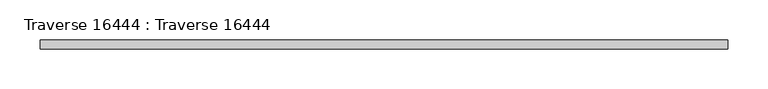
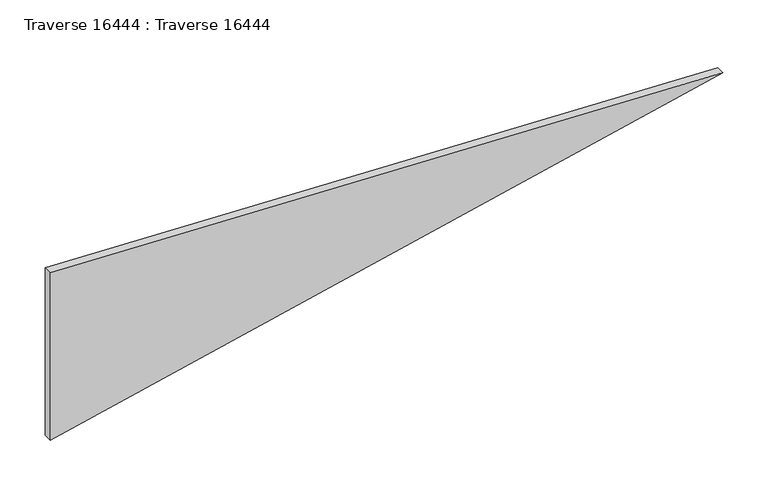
"""IFC4 building model written with IfcOpenShell, lengths in millimetres: beam geometry, Traverse 16444 : Traverse 16444."""

from ifc_helpers import new_model, si_unit, frame, origin, place, context, project, spatial, polyline, outline, extrude, source, transform, mapped, element, save


def traverse_16444_traverse_16444_2ea4da6f(model_context):
    return source(origin(), model_context, "Body", "SweptSolid", [
        extrude(outline(polyline([(7756.7615347, 1051.1860251), (7786.7277159, 195.0094188), (7561.1729988, 195.0182654), (7756.7615347, 1051.1860251)])), frame((0.0, -39820.55, 0.0), z_axis=(0.0, 1.0, 0.0), x_axis=(0.0, 0.0, 1.0)), (0.0, 0.0, 1.0), 11.1),
    ])


if __name__ == "__main__":
    model = new_model("IFC4")
    model_context = context("Model", 3, world=origin())
    ifc_project = project(units=[si_unit("LENGTHUNIT", "METRE", prefix="MILLI")], contexts=[model_context])
    site = spatial("IfcSite", under=ifc_project)
    building = spatial("IfcBuilding", under=site)
    placement = place(None, origin())
    traverse_16444_traverse_16444_shape = traverse_16444_traverse_16444_2ea4da6f(model_context)
    element("IfcBeam", 1, ObjectType="Traverse 16444 : Traverse 16444", at=placement, inside=building, context=model_context, shape_type="MappedRepresentation", body=[
        mapped(traverse_16444_traverse_16444_shape, transform((0.0, 0.0, 0.0), x_axis=(1.0, 0.0, 0.0), y_axis=(0.0, 1.0, 0.0), z_axis=(0.0, 0.0, 1.0))),
    ])
    save(model, "model.ifc")
